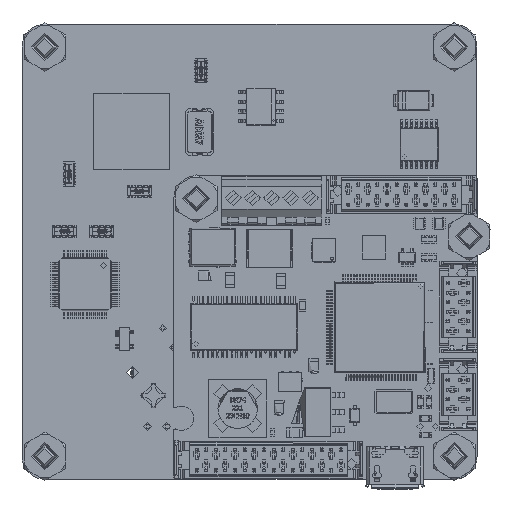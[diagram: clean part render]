
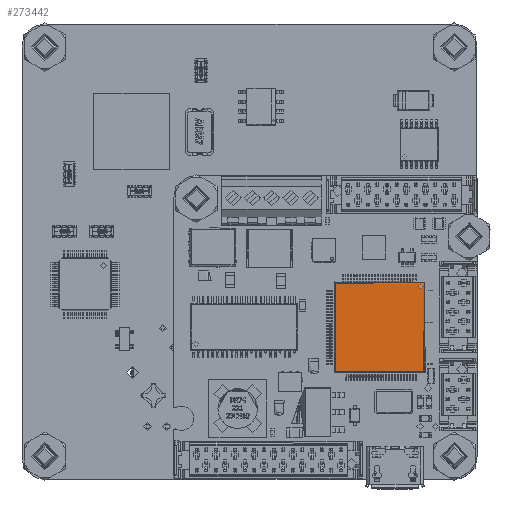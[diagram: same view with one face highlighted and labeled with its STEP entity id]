
A CAD part, top view. The second image highlights one B-rep face of the part: STEP entity #273442.
In plain terms, the highlighted planar face has unit normal (0, 0, -1).
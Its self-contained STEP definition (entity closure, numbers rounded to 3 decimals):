
#662 = LINE ( 'NONE', #346145, #10136 ) ;
#8774 = VERTEX_POINT ( 'NONE', #400284 ) ;
#10136 = VECTOR ( 'NONE', #320182, 1000. ) ;
#13356 = CARTESIAN_POINT ( 'NONE',  ( 14.191, 7.041, 1.33 ) ) ;
#22907 = EDGE_LOOP ( 'NONE', ( #263769 ) ) ;
#25104 = CARTESIAN_POINT ( 'NONE',  ( 25.808, 18.658, 1.33 ) ) ;
#39484 = ORIENTED_EDGE ( 'NONE', *, *, #173416, .T. ) ;
#41410 = DIRECTION ( 'NONE',  ( 0., 0., 1. ) ) ;
#54400 = VECTOR ( 'NONE', #147070, 1000. ) ;
#60866 = CARTESIAN_POINT ( 'NONE',  ( 25.808, 12.85, 1.33 ) ) ;
#65191 = VECTOR ( 'NONE', #127617, 1000. ) ;
#66404 = VERTEX_POINT ( 'NONE', #25104 ) ;
#70900 = VERTEX_POINT ( 'NONE', #78242 ) ;
#78242 = CARTESIAN_POINT ( 'NONE',  ( 25.909, 6.955, 0.829 ) ) ;
#79772 = DIRECTION ( 'NONE',  ( 1., 0., 0. ) ) ;
#103447 = PLANE ( 'NONE',  #121914 ) ;
#104792 = DIRECTION ( 'NONE',  ( 0., 0., -1. ) ) ;
#106190 = VECTOR ( 'NONE', #79772, 1000. ) ;
#121914 = AXIS2_PLACEMENT_3D ( 'NONE', #13356, #104792, #203129 ) ;
#127433 = VERTEX_POINT ( 'NONE', #346037 ) ;
#127617 = DIRECTION ( 'NONE',  ( 0., -1., 0. ) ) ;
#130888 = LINE ( 'NONE', #204120, #106190 ) ;
#146433 = FACE_OUTER_BOUND ( 'NONE', #157473, .T. ) ;
#147070 = DIRECTION ( 'NONE',  ( -1., 0., 0. ) ) ;
#147606 = AXIS2_PLACEMENT_3D ( 'NONE', #292641, #41410, #201125 ) ;
#157473 = EDGE_LOOP ( 'NONE', ( #39484, #270039, #235384, #260623 ) ) ;
#171270 = CARTESIAN_POINT ( 'NONE',  ( 14.191, 18.658, 1.33 ) ) ;
#173416 = EDGE_CURVE ( 'NONE', #70900, #8774, #386640, .T. ) ;
#183869 = CARTESIAN_POINT ( 'NONE',  ( 20., 7.041, 1.33 ) ) ;
#201125 = DIRECTION ( 'NONE',  ( 0., -1., 0. ) ) ;
#203129 = DIRECTION ( 'NONE',  ( 0., 1., 0. ) ) ;
#204120 = CARTESIAN_POINT ( 'NONE',  ( 20., 18.658, 1.33 ) ) ;
#218664 = EDGE_CURVE ( 'NONE', #66404, #70900, #265423, .T. ) ;
#235384 = ORIENTED_EDGE ( 'NONE', *, *, #379527, .T. ) ;
#253859 = FACE_BOUND ( 'NONE', #22907, .T. ) ;
#260623 = ORIENTED_EDGE ( 'NONE', *, *, #218664, .T. ) ;
#263769 = ORIENTED_EDGE ( 'NONE', *, *, #369905, .T. ) ;
#265423 = LINE ( 'NONE', #60866, #65191 ) ;
#269124 = EDGE_CURVE ( 'NONE', #8774, #270920, #662, .T. ) ;
#270039 = ORIENTED_EDGE ( 'NONE', *, *, #269124, .T. ) ;
#270920 = VERTEX_POINT ( 'NONE', #171270 ) ;
#273442 = ADVANCED_FACE ( 'NONE', ( #253859, #146433 ), #103447, .T. ) ;
#292641 = CARTESIAN_POINT ( 'NONE',  ( 25.389, 7.46, 1.33 ) ) ;
#320182 = DIRECTION ( 'NONE',  ( 0., 1., 0. ) ) ;
#346037 = CARTESIAN_POINT ( 'NONE',  ( 25.389, 7.197, 1.33 ) ) ;
#346145 = CARTESIAN_POINT ( 'NONE',  ( 14.191, 12.85, 1.33 ) ) ;
#365117 = CIRCLE ( 'NONE', #147606, 0.264 ) ;
#369905 = EDGE_CURVE ( 'NONE', #127433, #127433, #365117, .T. ) ;
#379527 = EDGE_CURVE ( 'NONE', #270920, #66404, #130888, .T. ) ;
#386640 = LINE ( 'NONE', #183869, #54400 ) ;
#400284 = CARTESIAN_POINT ( 'NONE',  ( 14.191, 7.041, 1.33 ) ) ;
